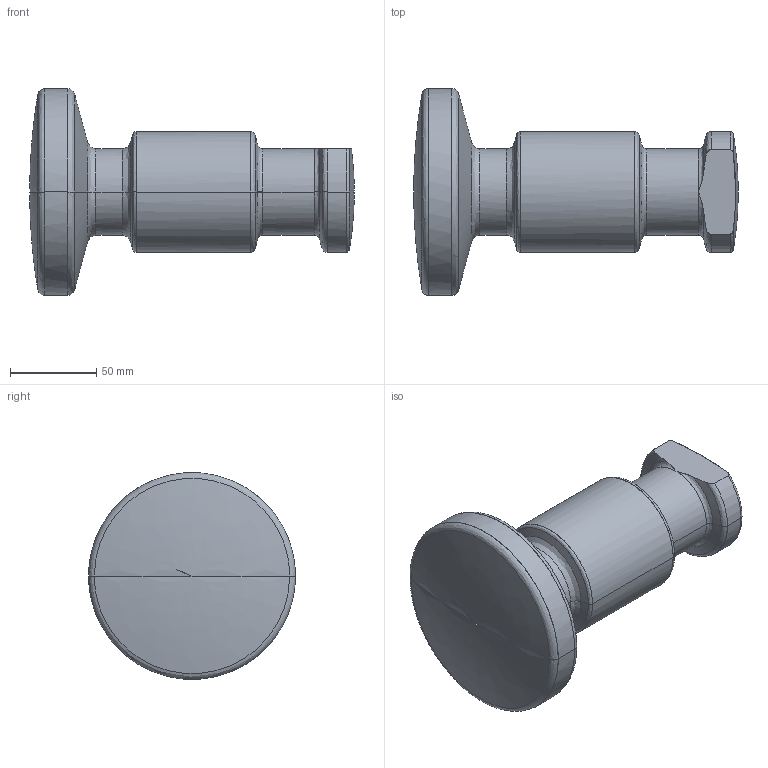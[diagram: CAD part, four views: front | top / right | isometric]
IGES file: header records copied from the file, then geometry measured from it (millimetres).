
Global section: file name: E:\UnigraphicsGraphicData\MISUMI_PRESS-PARTS\IGES\3d_chfl50_03524_r00.igs; native system: NX V5.0; preprocessor: UGS NX IGES V5.0; author: MISUMI; date: 20110105.160217; units: millimetre
Bounding box: 188.3 x 120 x 119.83 mm (x, y, z)
Surface area: 63651.9 mm2 (no closed solid volume)
Topology: 0 solids, 0 shells, 48 faces, 217 edges, 213 vertices
Faces by surface type: bspline 48
